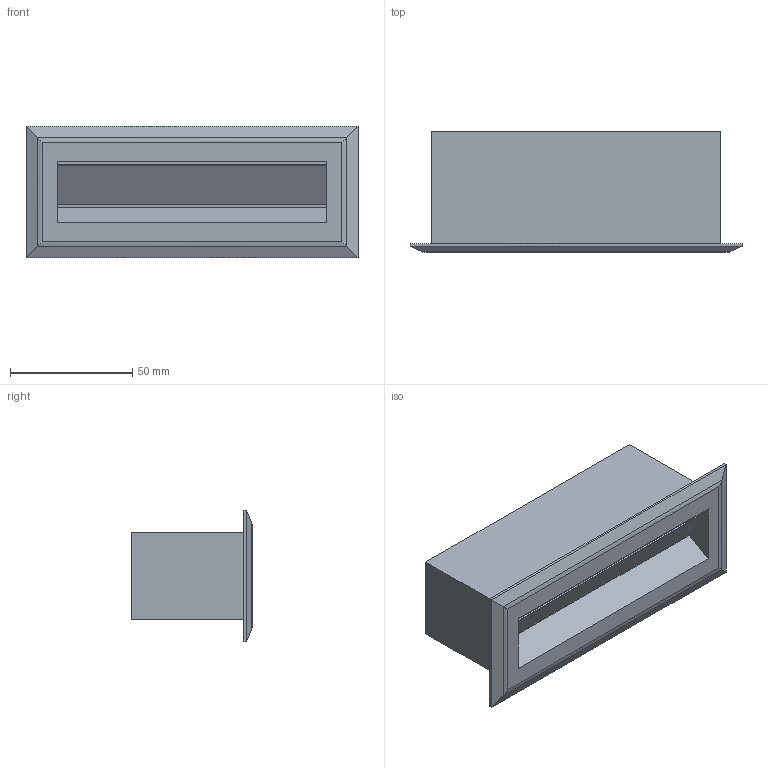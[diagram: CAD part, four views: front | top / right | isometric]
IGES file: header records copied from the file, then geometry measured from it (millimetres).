
Start section: SolidWorks IGES file using analytic representation for surfaces
Global section: file name: X:\PRODUKT\Modele 3D_WWW\_KOLEKCJE WWW\BAY-LED\BAY-LED-M-8165\BAY-LED-M-8165.IGS; native system: SolidWorks 2021; preprocessor: SolidWorks 2021; author: gabriela.tworek; date: 220530.110439; units: millimetre
Bounding box: 136 x 49.5 x 54 mm (x, y, z)
Surface area: 39284.9 mm2 (no closed solid volume)
Topology: 0 solids, 0 shells, 104 faces, 440 edges, 440 vertices
Faces by surface type: bspline 100, revolution 4
